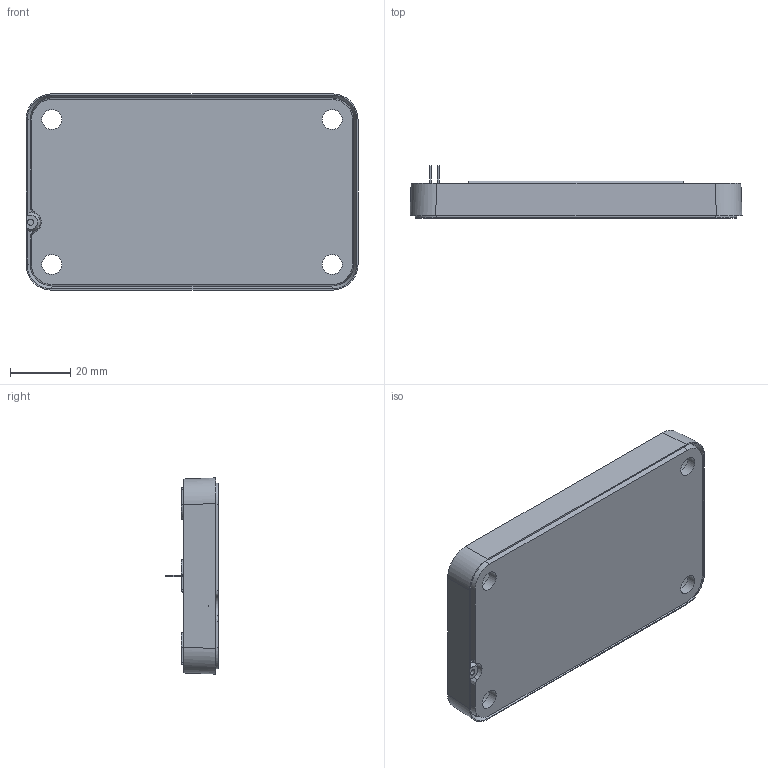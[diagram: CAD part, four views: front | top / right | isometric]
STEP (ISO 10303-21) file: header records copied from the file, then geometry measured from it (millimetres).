
FILE_DESCRIPTION (( 'STEP AP203' ), '1' );
FILE_NAME ('HN6.STEP', '2022-02-18T19:48:57', ( '' ), ( '' ), 'SwSTEP 2.0', 'SolidWorks 2018', '' );
FILE_SCHEMA (( 'CONFIG_CONTROL_DESIGN' ));
Products named in the file (2): HN6
Bounding box: 110 x 17.3 x 65 mm (x, y, z)
Volume: 43662.4 mm3; surface area: 52488 mm2
Topology: 19 solids, 19 shells, 2781 faces, 7037 edges, 4208 vertices
Faces by surface type: plane 1643, cylinder 721, cone 174, sphere 156, bspline 77, torus 10
Full cylindrical faces by diameter (mm): 2 x1, 6.6 x4
Entity records: 88216 total; most frequent: CARTESIAN_POINT 23907, ORIENTED_EDGE 13738, DIRECTION 12752, EDGE_CURVE 6869, VECTOR 4886, LINE 4886, VERTEX_POINT 4206, AXIS2_PLACEMENT_3D 3933
